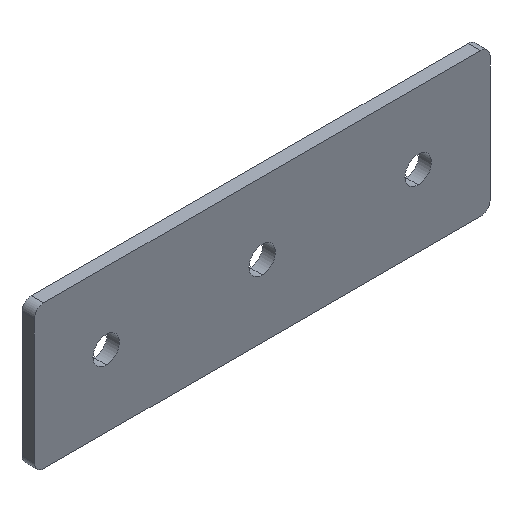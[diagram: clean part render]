
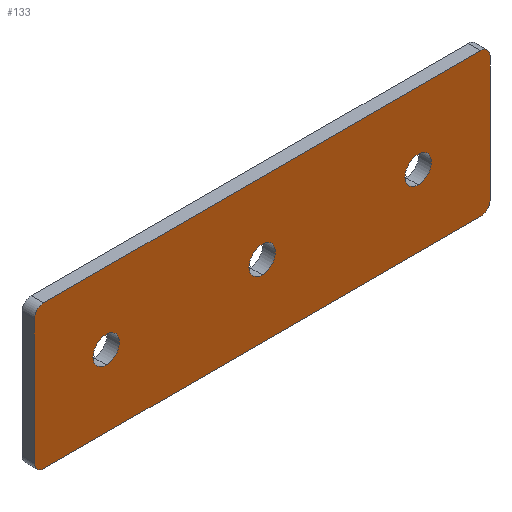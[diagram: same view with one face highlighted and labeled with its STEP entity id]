
A CAD part, isometric view. The second image highlights one B-rep face of the part: STEP entity #133.
In plain terms, the highlighted planar face has unit normal (0, -1, 0).
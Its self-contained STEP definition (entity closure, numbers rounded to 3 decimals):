
#4 = CIRCLE ( 'NONE', #314, 2.981 ) ;
#6 = EDGE_LOOP ( 'NONE', ( #316, #327 ) ) ;
#15 = CIRCLE ( 'NONE', #374, 4.25 ) ;
#17 = CARTESIAN_POINT ( 'NONE',  ( 12.865, 0., 10. ) ) ;
#23 = ORIENTED_EDGE ( 'NONE', *, *, #480, .T. ) ;
#33 = CARTESIAN_POINT ( 'NONE',  ( -7.154, 0., 30.019 ) ) ;
#34 = CARTESIAN_POINT ( 'NONE',  ( 62.865, 0., 10. ) ) ;
#39 = CARTESIAN_POINT ( 'NONE',  ( 135.865, 0., -10.019 ) ) ;
#41 = DIRECTION ( 'NONE',  ( 0., -1., 0. ) ) ;
#43 = ORIENTED_EDGE ( 'NONE', *, *, #469, .F. ) ;
#44 = CIRCLE ( 'NONE', #300, 4.25 ) ;
#46 = CARTESIAN_POINT ( 'NONE',  ( -10.135, 0., 30.019 ) ) ;
#51 = AXIS2_PLACEMENT_3D ( 'NONE', #33, #184, #362 ) ;
#53 = DIRECTION ( 'NONE',  ( 0., -1., 0. ) ) ;
#57 = ORIENTED_EDGE ( 'NONE', *, *, #306, .F. ) ;
#60 = CARTESIAN_POINT ( 'NONE',  ( 132.885, 0., 33. ) ) ;
#62 = CARTESIAN_POINT ( 'NONE',  ( -7.154, 0., 33. ) ) ;
#65 = LINE ( 'NONE', #39, #392 ) ;
#67 = CARTESIAN_POINT ( 'NONE',  ( -7.154, 0., -13. ) ) ;
#68 = CARTESIAN_POINT ( 'NONE',  ( 62.865, 0., 14.25 ) ) ;
#70 = EDGE_CURVE ( 'NONE', #390, #453, #4, .T. ) ;
#75 = EDGE_CURVE ( 'NONE', #581, #475, #15, .T. ) ;
#78 = CARTESIAN_POINT ( 'NONE',  ( 62.865, 0., 5.75 ) ) ;
#88 = VERTEX_POINT ( 'NONE', #62 ) ;
#96 = CIRCLE ( 'NONE', #243, 2.981 ) ;
#102 = AXIS2_PLACEMENT_3D ( 'NONE', #276, #527, #385 ) ;
#104 = DIRECTION ( 'NONE',  ( 0., 0., 1. ) ) ;
#111 = VERTEX_POINT ( 'NONE', #350 ) ;
#112 = VERTEX_POINT ( 'NONE', #226 ) ;
#117 = DIRECTION ( 'NONE',  ( 0., -1., 0. ) ) ;
#129 = VECTOR ( 'NONE', #219, 1000. ) ;
#133 = ADVANCED_FACE ( 'NONE', ( #457, #358, #446, #225 ), #278, .T. ) ;
#138 = EDGE_LOOP ( 'NONE', ( #477, #161, #214, #204, #599, #23, #195, #566 ) ) ;
#153 = CARTESIAN_POINT ( 'NONE',  ( 132.885, 0., -13. ) ) ;
#156 = EDGE_CURVE ( 'NONE', #111, #88, #203, .T. ) ;
#159 = CARTESIAN_POINT ( 'NONE',  ( 132.885, 0., 30.019 ) ) ;
#161 = ORIENTED_EDGE ( 'NONE', *, *, #450, .T. ) ;
#163 = CARTESIAN_POINT ( 'NONE',  ( 12.865, 0., 14.25 ) ) ;
#170 = DIRECTION ( 'NONE',  ( 1., 0., 0. ) ) ;
#178 = DIRECTION ( 'NONE',  ( 0., 0., -1. ) ) ;
#179 = VERTEX_POINT ( 'NONE', #483 ) ;
#180 = AXIS2_PLACEMENT_3D ( 'NONE', #34, #53, #104 ) ;
#184 = DIRECTION ( 'NONE',  ( 0., -1., 0. ) ) ;
#195 = ORIENTED_EDGE ( 'NONE', *, *, #70, .T. ) ;
#197 = CARTESIAN_POINT ( 'NONE',  ( 112.865, 0., 10. ) ) ;
#199 = AXIS2_PLACEMENT_3D ( 'NONE', #508, #247, #431 ) ;
#201 = EDGE_LOOP ( 'NONE', ( #541, #43 ) ) ;
#203 = LINE ( 'NONE', #60, #129 ) ;
#204 = ORIENTED_EDGE ( 'NONE', *, *, #156, .T. ) ;
#214 = ORIENTED_EDGE ( 'NONE', *, *, #297, .T. ) ;
#219 = DIRECTION ( 'NONE',  ( -1., 0., 0. ) ) ;
#221 = VERTEX_POINT ( 'NONE', #397 ) ;
#225 = FACE_OUTER_BOUND ( 'NONE', #138, .T. ) ;
#226 = CARTESIAN_POINT ( 'NONE',  ( -10.135, 0., 30.019 ) ) ;
#227 = DIRECTION ( 'NONE',  ( 0., 0., 1. ) ) ;
#232 = ORIENTED_EDGE ( 'NONE', *, *, #324, .F. ) ;
#237 = EDGE_CURVE ( 'NONE', #475, #581, #524, .T. ) ;
#239 = CARTESIAN_POINT ( 'NONE',  ( 12.865, 0., 5.75 ) ) ;
#243 = AXIS2_PLACEMENT_3D ( 'NONE', #159, #424, #406 ) ;
#244 = DIRECTION ( 'NONE',  ( 0., -1., 0. ) ) ;
#247 = DIRECTION ( 'NONE',  ( 0., -1., 0. ) ) ;
#262 = VERTEX_POINT ( 'NONE', #533 ) ;
#271 = CARTESIAN_POINT ( 'NONE',  ( -7.154, 0., -10.019 ) ) ;
#274 = DIRECTION ( 'NONE',  ( 0., 0., -1. ) ) ;
#276 = CARTESIAN_POINT ( 'NONE',  ( 12.865, 0., 10. ) ) ;
#278 = PLANE ( 'NONE',  #577 ) ;
#288 = VECTOR ( 'NONE', #373, 1000. ) ;
#293 = DIRECTION ( 'NONE',  ( 0., 0., 1. ) ) ;
#296 = LINE ( 'NONE', #46, #288 ) ;
#297 = EDGE_CURVE ( 'NONE', #459, #111, #96, .T. ) ;
#300 = AXIS2_PLACEMENT_3D ( 'NONE', #328, #472, #598 ) ;
#301 = CIRCLE ( 'NONE', #529, 4.25 ) ;
#306 = EDGE_CURVE ( 'NONE', #513, #412, #307, .T. ) ;
#307 = CIRCLE ( 'NONE', #180, 4.25 ) ;
#310 = CIRCLE ( 'NONE', #199, 2.981 ) ;
#314 = AXIS2_PLACEMENT_3D ( 'NONE', #271, #117, #178 ) ;
#316 = ORIENTED_EDGE ( 'NONE', *, *, #237, .F. ) ;
#324 = EDGE_CURVE ( 'NONE', #412, #513, #44, .T. ) ;
#327 = ORIENTED_EDGE ( 'NONE', *, *, #75, .F. ) ;
#328 = CARTESIAN_POINT ( 'NONE',  ( 62.865, 0., 10. ) ) ;
#330 = LINE ( 'NONE', #349, #560 ) ;
#349 = CARTESIAN_POINT ( 'NONE',  ( -7.154, 0., -13. ) ) ;
#350 = CARTESIAN_POINT ( 'NONE',  ( 132.885, 0., 33. ) ) ;
#352 = VERTEX_POINT ( 'NONE', #153 ) ;
#358 = FACE_BOUND ( 'NONE', #422, .T. ) ;
#362 = DIRECTION ( 'NONE',  ( 0., 0., -1. ) ) ;
#373 = DIRECTION ( 'NONE',  ( 0., 0., -1. ) ) ;
#374 = AXIS2_PLACEMENT_3D ( 'NONE', #17, #517, #227 ) ;
#384 = EDGE_CURVE ( 'NONE', #262, #179, #590, .T. ) ;
#385 = DIRECTION ( 'NONE',  ( 0., 0., 1. ) ) ;
#390 = VERTEX_POINT ( 'NONE', #563 ) ;
#392 = VECTOR ( 'NONE', #293, 1000. ) ;
#397 = CARTESIAN_POINT ( 'NONE',  ( 135.865, 0., -10.019 ) ) ;
#406 = DIRECTION ( 'NONE',  ( 0., 0., -1. ) ) ;
#412 = VERTEX_POINT ( 'NONE', #78 ) ;
#413 = CARTESIAN_POINT ( 'NONE',  ( 135.865, 0., 30.019 ) ) ;
#422 = EDGE_LOOP ( 'NONE', ( #232, #57 ) ) ;
#424 = DIRECTION ( 'NONE',  ( 0., -1., 0. ) ) ;
#431 = DIRECTION ( 'NONE',  ( 0., 0., -1. ) ) ;
#439 = AXIS2_PLACEMENT_3D ( 'NONE', #197, #244, #498 ) ;
#446 = FACE_BOUND ( 'NONE', #201, .T. ) ;
#450 = EDGE_CURVE ( 'NONE', #221, #459, #65, .T. ) ;
#453 = VERTEX_POINT ( 'NONE', #67 ) ;
#457 = FACE_BOUND ( 'NONE', #6, .T. ) ;
#459 = VERTEX_POINT ( 'NONE', #413 ) ;
#469 = EDGE_CURVE ( 'NONE', #179, #262, #301, .T. ) ;
#472 = DIRECTION ( 'NONE',  ( 0., -1., 0. ) ) ;
#475 = VERTEX_POINT ( 'NONE', #239 ) ;
#477 = ORIENTED_EDGE ( 'NONE', *, *, #522, .T. ) ;
#480 = EDGE_CURVE ( 'NONE', #112, #390, #296, .T. ) ;
#483 = CARTESIAN_POINT ( 'NONE',  ( 112.865, 0., 14.25 ) ) ;
#489 = DIRECTION ( 'NONE',  ( 0., -1., 0. ) ) ;
#498 = DIRECTION ( 'NONE',  ( 0., 0., 1. ) ) ;
#508 = CARTESIAN_POINT ( 'NONE',  ( 132.885, 0., -10.019 ) ) ;
#510 = EDGE_CURVE ( 'NONE', #88, #112, #512, .T. ) ;
#512 = CIRCLE ( 'NONE', #51, 2.981 ) ;
#513 = VERTEX_POINT ( 'NONE', #68 ) ;
#517 = DIRECTION ( 'NONE',  ( 0., -1., 0. ) ) ;
#522 = EDGE_CURVE ( 'NONE', #352, #221, #310, .T. ) ;
#524 = CIRCLE ( 'NONE', #102, 4.25 ) ;
#527 = DIRECTION ( 'NONE',  ( 0., -1., 0. ) ) ;
#529 = AXIS2_PLACEMENT_3D ( 'NONE', #580, #41, #540 ) ;
#531 = CARTESIAN_POINT ( 'NONE',  ( 132.885, 0., -10.019 ) ) ;
#533 = CARTESIAN_POINT ( 'NONE',  ( 112.865, 0., 5.75 ) ) ;
#540 = DIRECTION ( 'NONE',  ( 0., 0., 1. ) ) ;
#541 = ORIENTED_EDGE ( 'NONE', *, *, #384, .F. ) ;
#554 = EDGE_CURVE ( 'NONE', #453, #352, #330, .T. ) ;
#560 = VECTOR ( 'NONE', #170, 1000. ) ;
#563 = CARTESIAN_POINT ( 'NONE',  ( -10.135, 0., -10.019 ) ) ;
#566 = ORIENTED_EDGE ( 'NONE', *, *, #554, .T. ) ;
#577 = AXIS2_PLACEMENT_3D ( 'NONE', #531, #489, #274 ) ;
#580 = CARTESIAN_POINT ( 'NONE',  ( 112.865, 0., 10. ) ) ;
#581 = VERTEX_POINT ( 'NONE', #163 ) ;
#590 = CIRCLE ( 'NONE', #439, 4.25 ) ;
#598 = DIRECTION ( 'NONE',  ( 0., 0., 1. ) ) ;
#599 = ORIENTED_EDGE ( 'NONE', *, *, #510, .T. ) ;
